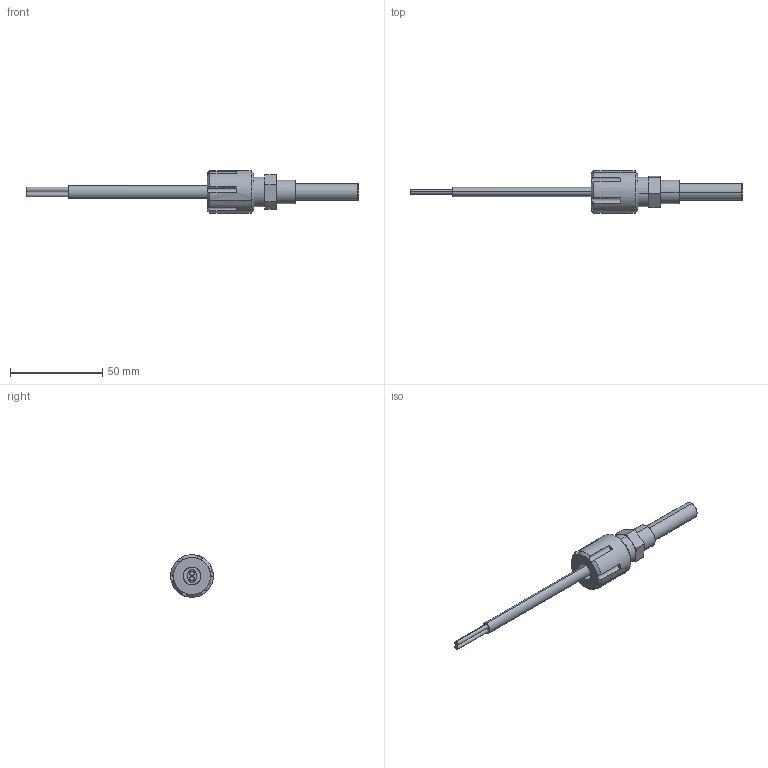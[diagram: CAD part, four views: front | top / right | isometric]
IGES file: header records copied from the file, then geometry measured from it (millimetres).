
Start section: SolidWorks IGES file using analytic representation for surfaces
Global section: file name: S:\Product Visuals\FILES FOR PUBLICATION\SOLID MODELS FOR PUBLICATION\30-shuttle\igs\stroke-detection\sf-fiber-optic-stroke-detect.IGS; native system: SolidWorks 2012; preprocessor: SolidWorks 2012; author: karen.bodily; date: 121121.154415; units: inch
Bounding box: 180.21 x 23.11 x 23.1 mm (x, y, z)
Surface area: 10585.9 mm2 (no closed solid volume)
Topology: 0 solids, 0 shells, 70 faces, 1063 edges, 1063 vertices
Faces by surface type: bspline 37, revolution 33
